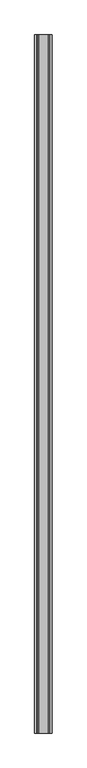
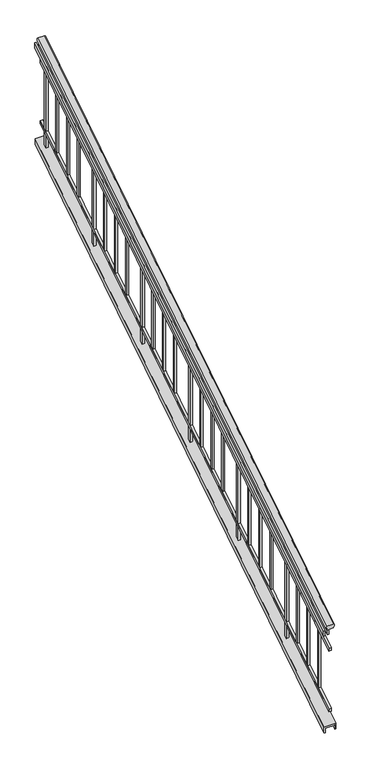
"""IFC4 building model written with IfcOpenShell, lengths in millimetres: railing geometry, Deco Type 4."""

from ifc_helpers import new_model, si_unit, frame, origin, place, context, project, spatial, polyline, ellipse_curve, outline, extrude, faceted_brep, source, transform, mapped, element, save
from ifc_brep_helpers import plane_surface, cylinder_surface, advanced_brep


def railing_31ead5e1(model_context):
    return source(origin(), model_context, "Body", "SolidModel", [
        advanced_brep(
        [(-12483.8417003, -24196.3993137, 1042.4662115), (-12547.1914529, -24196.3993137, 1042.4662115), (-12547.1914529, -24196.3993137, 1016.047593), (-12547.1914529, -24196.3993137, 1004.8326339), (-12483.8417003, -24196.3993137, 1004.8326339), (-12483.8417003, -24196.3993137, 1016.1225193), (-12483.8417003, -19243.3993137, 4194.3753024), (-12483.8417003, -19243.3993137, 4168.0316102), (-12483.8417003, -19243.3993137, 4156.7417248), (-12547.1914529, -19243.3993137, 4156.7417248), (-12547.1914529, -19243.3993137, 4167.9566839), (-12547.1914529, -19243.3993137, 4194.3753024)],
        [
            (0, 1),
            (1, 2, ellipse_curve(frame((-12547.1914529, -24196.3993137, 1029.2569022), z_axis=(0.0, -1.0, 0.0), x_axis=(0.0, 0.0, -1.0)), 13.2093093, 11.1441855)),
            (2, 3),
            (3, 4),
            (4, 5),
            (5, 0, ellipse_curve(frame((-12483.8417003, -24196.3993137, 1029.2943654), z_axis=(0.0, -1.0, 0.0), x_axis=(0.0, 0.0, -1.0)), 13.1718461, 11.1125793)),
            (6, 7, ellipse_curve(frame((-12483.8417003, -19243.3993137, 4181.2034563), z_axis=(0.0, 1.0, 0.0), x_axis=(0.0, 0.0, -1.0)), 13.1718461, 11.1125793)),
            (7, 8),
            (8, 9),
            (9, 10),
            (10, 11, ellipse_curve(frame((-12547.1914529, -19243.3993137, 4181.1659931), z_axis=(0.0, 1.0, 0.0), x_axis=(0.0, 0.0, -1.0)), 13.2093093, 11.1441855)),
            (11, 6),
            (0, 6),
            (11, 1),
            (10, 2),
            (9, 3),
            (8, 4),
            (7, 5),
        ],
        [
            plane_surface(frame((-12515.4414529, -24196.3993137, 1004.8326339), z_axis=(0.0, -1.0, 0.0), x_axis=(0.0, 0.0, 1.0))),
            plane_surface(frame((-12515.4414529, -19243.3993137, 4156.7417248), z_axis=(0.0, 1.0, 0.0), x_axis=(0.0, 0.0, 1.0))),
            plane_surface(frame((-12483.8417003, -24196.3993137, 1042.4662115), z_axis=(0.0, -0.5368754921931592, 0.8436614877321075), x_axis=(0.0, 0.8436614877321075, 0.5368754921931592))),
            cylinder_surface(frame((-12547.1914529, -24207.4620705, 1022.2169661), z_axis=(0.0, -0.8436614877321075, -0.5368754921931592), x_axis=(-1.0, 0.0, 0.0)), 11.1441855),
            plane_surface(frame((-12547.1914529, -24196.3993137, 1016.047593), z_axis=(-1.0, 0.0, 0.0), x_axis=(0.0, 0.8436614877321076, 0.5368754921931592))),
            plane_surface(frame((-12547.1914529, -24196.3993137, 1004.8326339), z_axis=(0.0, 0.5368754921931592, -0.8436614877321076), x_axis=(0.0, 0.8436614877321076, 0.5368754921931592))),
            plane_surface(frame((-12483.8417003, -24196.3993137, 1004.8326339), z_axis=(1.0, 0.0, 0.0), x_axis=(0.0, 0.8436614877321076, 0.5368754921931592))),
            cylinder_surface(frame((-12483.8417003, -24207.4790391, 1022.243631), z_axis=(0.0, -0.8436614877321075, -0.5368754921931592), x_axis=(-1.0, 0.0, 0.0)), 11.1125793),
        ],
        [
            (0, [[1, 2, 3, 4, 5, 6]]),
            (1, [[7, 8, 9, 10, 11, 12]]),
            (2, [[-1, 13, -12, 14]]),
            (3, [[-2, -14, -11, 15]]),
            (4, [[-3, -15, -10, 16]]),
            (5, [[-4, -16, -9, 17]]),
            (6, [[-5, -17, -8, 18]]),
            (7, [[-6, -18, -7, -13]]),
        ],
    ),
        faceted_brep([(-12540.9165766, -24196.3993137, 1004.8326339), (-12540.9165766, -24196.3993137, 952.1456254), (-12528.2165766, -24196.3993137, 952.1456254), (-12528.2165766, -24196.3993137, 1004.8326339), (-12540.9165766, -19243.3993137, 4156.7417248), (-12528.2165766, -19243.3993137, 4156.7417248), (-12528.2165766, -19243.3993137, 4104.0547163), (-12540.9165766, -19243.3993137, 4104.0547163)], [[[0, 1, 2, 3]], [[4, 5, 6, 7]], [[1, 0, 4, 7]], [[2, 1, 7, 6]], [[3, 2, 6, 5]], [[0, 3, 5, 4]]]),
        faceted_brep([(-12579.0165766, -24196.3993137, 1004.8326339), (-12579.0165766, -24196.3993137, 952.1456254), (-12566.3165766, -24196.3993137, 952.1456254), (-12566.3165766, -24196.3993137, 1004.8326339), (-12579.0165766, -19243.3993137, 4156.7417248), (-12566.3165766, -19243.3993137, 4156.7417248), (-12566.3165766, -19243.3993137, 4104.0547163), (-12579.0165766, -19243.3993137, 4104.0547163)], [[[0, 1, 2, 3]], [[4, 5, 6, 7]], [[1, 0, 4, 7]], [[2, 1, 7, 6]], [[3, 2, 6, 5]], [[0, 3, 5, 4]]]),
        faceted_brep([(-12528.1414529, -24196.3993137, 806.339496), (-12528.1414529, -24196.3993137, 776.2326339), (-12502.7414529, -24196.3993137, 776.2326339), (-12502.7414529, -24196.3993137, 806.339496), (-12528.1414529, -19243.3993137, 3958.2485869), (-12502.7414529, -19243.3993137, 3958.2485869), (-12502.7414529, -19243.3993137, 3928.1417248), (-12528.1414529, -19243.3993137, 3928.1417248)], [[[0, 1, 2, 3]], [[4, 5, 6, 7]], [[1, 0, 4, 7]], [[2, 1, 7, 6]], [[3, 2, 6, 5]], [[0, 3, 5, 4]]]),
        faceted_brep([(-12528.1414529, -24196.3993137, 171.339496), (-12528.1414529, -24196.3993137, 141.2326339), (-12502.7414529, -24196.3993137, 141.2326339), (-12502.7414529, -24196.3993137, 171.339496), (-12528.1414529, -19243.3993137, 3323.2485869), (-12502.7414529, -19243.3993137, 3323.2485869), (-12502.7414529, -19243.3993137, 3293.1417248), (-12528.1414529, -19243.3993137, 3293.1417248)], [[[0, 1, 2, 3]], [[4, 5, 6, 7]], [[1, 0, 4, 7]], [[2, 1, 7, 6]], [[3, 2, 6, 5]], [[0, 3, 5, 4]]]),
        faceted_brep([(-12456.7790766, -24196.3993137, -3.8441886), (-12574.2540766, -24196.3993137, -3.8441886), (-12574.2540766, -24196.3993137, -61.9673661), (-12561.5540766, -24196.3993137, -61.9673661), (-12561.5540766, -24196.3993137, -18.8976196), (-12469.4790766, -24196.3993137, -18.8976196), (-12469.4790766, -24196.3993137, -61.9673661), (-12456.7790766, -24196.3993137, -61.9673661), (-12456.7790766, -19243.3993137, 3148.0649023), (-12456.7790766, -19243.3993137, 3089.9417248), (-12469.4790766, -19243.3993137, 3089.9417248), (-12469.4790766, -19243.3993137, 3133.0114713), (-12561.5540766, -19243.3993137, 3133.0114713), (-12561.5540766, -19243.3993137, 3089.9417248), (-12574.2540766, -19243.3993137, 3089.9417248), (-12574.2540766, -19243.3993137, 3148.0649023)], [[[0, 1, 2, 3, 4, 5, 6, 7]], [[8, 9, 10, 11, 12, 13, 14, 15]], [[1, 0, 8, 15]], [[2, 1, 15, 14]], [[3, 2, 14, 13]], [[4, 3, 13, 12]], [[5, 4, 12, 11]], [[6, 5, 11, 10]], [[7, 6, 10, 9]], [[0, 7, 9, 8]]]),
        extrude(outline(polyline([(-12525.3633279, -19335.9864104), (-12525.3633279, -19310.5864104), (-12499.9633279, -19310.5864104), (-12499.9633279, -19335.9864104), (-12525.3633279, -19335.9864104)])), frame((0.0, 0.0, 3047.9844214), z_axis=(0.0, 0.0, 1.0), x_axis=(1.0, 0.0, 0.0)), (0.0, 0.0, 1.0), 1057.92006),
        extrude(outline(polyline([(-12522.1883279, -19519.2146362), (-12522.1883279, -19500.1646362), (-12503.1383279, -19500.1646362), (-12503.1383279, -19519.2146362), (-12522.1883279, -19519.2146362)])), frame((0.0, 0.0, 3149.0842468), z_axis=(0.0, 0.0, 1.0), x_axis=(1.0, 0.0, 0.0)), (0.0, 0.0, 1.0), 609.6),
        extrude(outline(polyline([(-12522.1883279, -19705.617862), (-12522.1883279, -19686.567862), (-12503.1383279, -19686.567862), (-12503.1383279, -19705.617862), (-12522.1883279, -19705.617862)])), frame((0.0, 0.0, 3030.4640122), z_axis=(0.0, 0.0, 1.0), x_axis=(1.0, 0.0, 0.0)), (0.0, 0.0, 1.0), 609.6),
        extrude(outline(polyline([(-12522.1883279, -19892.0210879), (-12522.1883279, -19872.9710879), (-12503.1383279, -19872.9710879), (-12503.1383279, -19892.0210879), (-12522.1883279, -19892.0210879)])), frame((0.0, 0.0, 2911.8437776), z_axis=(0.0, 0.0, 1.0), x_axis=(1.0, 0.0, 0.0)), (0.0, 0.0, 1.0), 609.6),
        extrude(outline(polyline([(-12525.3633279, -20161.4864104), (-12525.3633279, -20136.0864104), (-12499.9633279, -20136.0864104), (-12499.9633279, -20161.4864104), (-12525.3633279, -20161.4864104)])), frame((0.0, 0.0, 2522.6662396), z_axis=(0.0, 0.0, 1.0), x_axis=(1.0, 0.0, 0.0)), (0.0, 0.0, 1.0), 1057.92006),
        extrude(outline(polyline([(-12522.1883279, -20344.7146362), (-12522.1883279, -20325.6646362), (-12503.1383279, -20325.6646362), (-12503.1383279, -20344.7146362), (-12522.1883279, -20344.7146362)])), frame((0.0, 0.0, 2623.766065), z_axis=(0.0, 0.0, 1.0), x_axis=(1.0, 0.0, 0.0)), (0.0, 0.0, 1.0), 609.6),
        extrude(outline(polyline([(-12522.1883279, -20531.117862), (-12522.1883279, -20512.067862), (-12503.1383279, -20512.067862), (-12503.1383279, -20531.117862), (-12522.1883279, -20531.117862)])), frame((0.0, 0.0, 2505.1458304), z_axis=(0.0, 0.0, 1.0), x_axis=(1.0, 0.0, 0.0)), (0.0, 0.0, 1.0), 609.6),
        extrude(outline(polyline([(-12522.1883279, -20717.5210879), (-12522.1883279, -20698.4710879), (-12503.1383279, -20698.4710879), (-12503.1383279, -20717.5210879), (-12522.1883279, -20717.5210879)])), frame((0.0, 0.0, 2386.5255958), z_axis=(0.0, 0.0, 1.0), x_axis=(1.0, 0.0, 0.0)), (0.0, 0.0, 1.0), 609.6),
        extrude(outline(polyline([(-12525.3633279, -20986.9864104), (-12525.3633279, -20961.5864104), (-12499.9633279, -20961.5864104), (-12499.9633279, -20986.9864104), (-12525.3633279, -20986.9864104)])), frame((0.0, 0.0, 1997.3480578), z_axis=(0.0, 0.0, 1.0), x_axis=(1.0, 0.0, 0.0)), (0.0, 0.0, 1.0), 1057.92006),
        extrude(outline(polyline([(-12522.1883279, -21170.2146362), (-12522.1883279, -21151.1646362), (-12503.1383279, -21151.1646362), (-12503.1383279, -21170.2146362), (-12522.1883279, -21170.2146362)])), frame((0.0, 0.0, 2098.4478832), z_axis=(0.0, 0.0, 1.0), x_axis=(1.0, 0.0, 0.0)), (0.0, 0.0, 1.0), 609.6),
        extrude(outline(polyline([(-12522.1883279, -21356.617862), (-12522.1883279, -21337.567862), (-12503.1383279, -21337.567862), (-12503.1383279, -21356.617862), (-12522.1883279, -21356.617862)])), frame((0.0, 0.0, 1979.8276486), z_axis=(0.0, 0.0, 1.0), x_axis=(1.0, 0.0, 0.0)), (0.0, 0.0, 1.0), 609.6),
        extrude(outline(polyline([(-12522.1883279, -21543.0210879), (-12522.1883279, -21523.9710879), (-12503.1383279, -21523.9710879), (-12503.1383279, -21543.0210879), (-12522.1883279, -21543.0210879)])), frame((0.0, 0.0, 1861.207414), z_axis=(0.0, 0.0, 1.0), x_axis=(1.0, 0.0, 0.0)), (0.0, 0.0, 1.0), 609.6),
        extrude(outline(polyline([(-12525.3633279, -21812.4864104), (-12525.3633279, -21787.0864104), (-12499.9633279, -21787.0864104), (-12499.9633279, -21812.4864104), (-12525.3633279, -21812.4864104)])), frame((0.0, 0.0, 1472.029876), z_axis=(0.0, 0.0, 1.0), x_axis=(1.0, 0.0, 0.0)), (0.0, 0.0, 1.0), 1057.92006),
        extrude(outline(polyline([(-12522.1883279, -21995.7146362), (-12522.1883279, -21976.6646362), (-12503.1383279, -21976.6646362), (-12503.1383279, -21995.7146362), (-12522.1883279, -21995.7146362)])), frame((0.0, 0.0, 1573.1297014), z_axis=(0.0, 0.0, 1.0), x_axis=(1.0, 0.0, 0.0)), (0.0, 0.0, 1.0), 609.6),
        extrude(outline(polyline([(-12522.1883279, -22182.117862), (-12522.1883279, -22163.067862), (-12503.1383279, -22163.067862), (-12503.1383279, -22182.117862), (-12522.1883279, -22182.117862)])), frame((0.0, 0.0, 1454.5094668), z_axis=(0.0, 0.0, 1.0), x_axis=(1.0, 0.0, 0.0)), (0.0, 0.0, 1.0), 609.6),
        extrude(outline(polyline([(-12522.1883279, -22368.5210879), (-12522.1883279, -22349.4710879), (-12503.1383279, -22349.4710879), (-12503.1383279, -22368.5210879), (-12522.1883279, -22368.5210879)])), frame((0.0, 0.0, 1335.8892322), z_axis=(0.0, 0.0, 1.0), x_axis=(1.0, 0.0, 0.0)), (0.0, 0.0, 1.0), 609.6),
        extrude(outline(polyline([(-12525.3633279, -22637.9864104), (-12525.3633279, -22612.5864104), (-12499.9633279, -22612.5864104), (-12499.9633279, -22637.9864104), (-12525.3633279, -22637.9864104)])), frame((0.0, 0.0, 946.7116941), z_axis=(0.0, 0.0, 1.0), x_axis=(1.0, 0.0, 0.0)), (0.0, 0.0, 1.0), 1057.92006),
        extrude(outline(polyline([(-12522.1883279, -22821.2146362), (-12522.1883279, -22802.1646362), (-12503.1383279, -22802.1646362), (-12503.1383279, -22821.2146362), (-12522.1883279, -22821.2146362)])), frame((0.0, 0.0, 1047.8115196), z_axis=(0.0, 0.0, 1.0), x_axis=(1.0, 0.0, 0.0)), (0.0, 0.0, 1.0), 609.6),
        extrude(outline(polyline([(-12522.1883279, -23007.617862), (-12522.1883279, -22988.567862), (-12503.1383279, -22988.567862), (-12503.1383279, -23007.617862), (-12522.1883279, -23007.617862)])), frame((0.0, 0.0, 929.191285), z_axis=(0.0, 0.0, 1.0), x_axis=(1.0, 0.0, 0.0)), (0.0, 0.0, 1.0), 609.6),
        extrude(outline(polyline([(-12522.1883279, -23194.0210879), (-12522.1883279, -23174.9710879), (-12503.1383279, -23174.9710879), (-12503.1383279, -23194.0210879), (-12522.1883279, -23194.0210879)])), frame((0.0, 0.0, 810.5710504), z_axis=(0.0, 0.0, 1.0), x_axis=(1.0, 0.0, 0.0)), (0.0, 0.0, 1.0), 609.6),
        extrude(outline(polyline([(-12525.3633279, -23463.4864104), (-12525.3633279, -23438.0864104), (-12499.9633279, -23438.0864104), (-12499.9633279, -23463.4864104), (-12525.3633279, -23463.4864104)])), frame((0.0, 0.0, 421.3935123), z_axis=(0.0, 0.0, 1.0), x_axis=(1.0, 0.0, 0.0)), (0.0, 0.0, 1.0), 1057.92006),
        extrude(outline(polyline([(-12522.1883279, -23646.7146362), (-12522.1883279, -23627.6646362), (-12503.1383279, -23627.6646362), (-12503.1383279, -23646.7146362), (-12522.1883279, -23646.7146362)])), frame((0.0, 0.0, 522.4933378), z_axis=(0.0, 0.0, 1.0), x_axis=(1.0, 0.0, 0.0)), (0.0, 0.0, 1.0), 609.6),
        extrude(outline(polyline([(-12522.1883279, -23833.117862), (-12522.1883279, -23814.067862), (-12503.1383279, -23814.067862), (-12503.1383279, -23833.117862), (-12522.1883279, -23833.117862)])), frame((0.0, 0.0, 403.8731031), z_axis=(0.0, 0.0, 1.0), x_axis=(1.0, 0.0, 0.0)), (0.0, 0.0, 1.0), 609.6),
        extrude(outline(polyline([(-12522.1883279, -24019.5210879), (-12522.1883279, -24000.4710879), (-12503.1383279, -24000.4710879), (-12503.1383279, -24019.5210879), (-12522.1883279, -24019.5210879)])), frame((0.0, 0.0, 285.2528685), z_axis=(0.0, 0.0, 1.0), x_axis=(1.0, 0.0, 0.0)), (0.0, 0.0, 1.0), 609.6),
    ])


if __name__ == "__main__":
    model = new_model("IFC4")
    model_context = context("Model", 3, world=origin())
    ifc_project = project(units=[si_unit("LENGTHUNIT", "METRE", prefix="MILLI")], contexts=[model_context])
    site = spatial("IfcSite", under=ifc_project)
    building = spatial("IfcBuilding", under=site)
    placement = place(None, origin())
    railing_shape = railing_31ead5e1(model_context)
    element("IfcRailing", 1, ObjectType="Deco Type 4", at=placement, inside=building, context=model_context, shape_type="MappedRepresentation", body=[
        mapped(railing_shape, transform((0.0, 0.0, 0.0), x_axis=(1.0, 0.0, 0.0), y_axis=(0.0, 1.0, 0.0), z_axis=(0.0, 0.0, 1.0))),
    ])
    save(model, "model.ifc")
